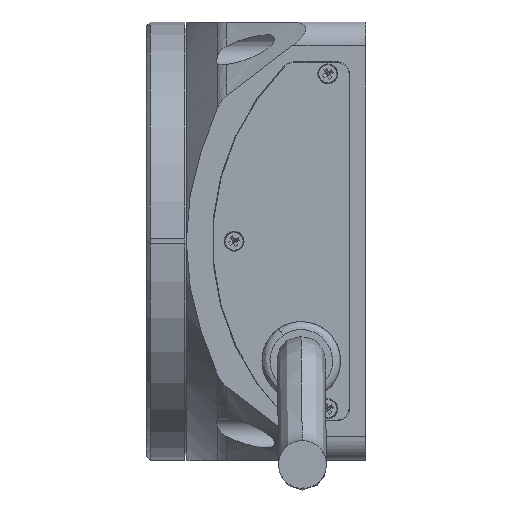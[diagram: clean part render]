
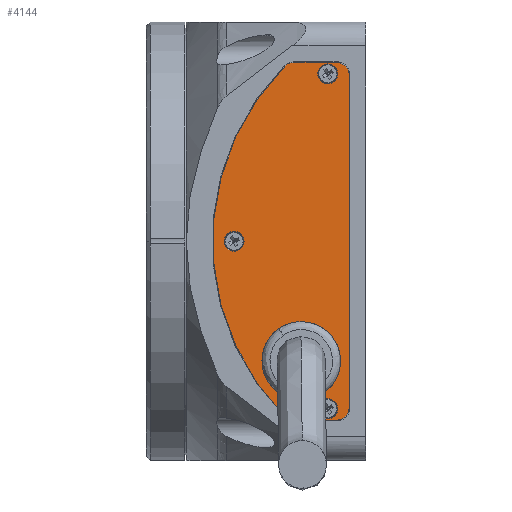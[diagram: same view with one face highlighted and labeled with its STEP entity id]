
A CAD part, left-side view. The second image highlights one B-rep face of the part: STEP entity #4144.
In plain terms, the highlighted planar face has unit normal (-1, 0, 0).
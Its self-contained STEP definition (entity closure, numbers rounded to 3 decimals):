
#58 = ORIENTED_EDGE ( 'NONE', *, *, #9126, .T. ) ;
#173 = CARTESIAN_POINT ( 'NONE',  ( -54.89, 33., -2.5 ) ) ;
#204 = CIRCLE ( 'NONE', #593, 2.5 ) ;
#216 = CARTESIAN_POINT ( 'NONE',  ( -54.89, 16.15, -39.85 ) ) ;
#218 = DIRECTION ( 'NONE',  ( 0., 0., -1. ) ) ;
#235 = DIRECTION ( 'NONE',  ( 1., 0., 0. ) ) ;
#248 = CARTESIAN_POINT ( 'NONE',  ( -54.89, 16.15, -30. ) ) ;
#250 = ORIENTED_EDGE ( 'NONE', *, *, #4096, .T. ) ;
#333 = DIRECTION ( 'NONE',  ( 0., 0., 1. ) ) ;
#343 = DIRECTION ( 'NONE',  ( 1., 0., 0. ) ) ;
#359 = CARTESIAN_POINT ( 'NONE',  ( -54.89, 9.5, 42. ) ) ;
#373 = ORIENTED_EDGE ( 'NONE', *, *, #2479, .T. ) ;
#593 = AXIS2_PLACEMENT_3D ( 'NONE', #359, #343, #333 ) ;
#631 = AXIS2_PLACEMENT_3D ( 'NONE', #7602, #7589, #7576 ) ;
#638 = ORIENTED_EDGE ( 'NONE', *, *, #6701, .T. ) ;
#654 = VECTOR ( 'NONE', #1487, 1000. ) ;
#665 = CARTESIAN_POINT ( 'NONE',  ( -54.89, 4.15, -41.675 ) ) ;
#715 = EDGE_CURVE ( 'NONE', #1976, #5033, #1683, .T. ) ;
#841 = AXIS2_PLACEMENT_3D ( 'NONE', #5821, #5431, #5510 ) ;
#905 = EDGE_CURVE ( 'NONE', #4890, #6594, #7450, .T. ) ;
#908 = CIRCLE ( 'NONE', #6408, 2.5 ) ;
#920 = DIRECTION ( 'NONE',  ( 0., 0., 1. ) ) ;
#939 = DIRECTION ( 'NONE',  ( 1., 0., 0. ) ) ;
#949 = CARTESIAN_POINT ( 'NONE',  ( -54.89, 9.5, -42. ) ) ;
#984 = ORIENTED_EDGE ( 'NONE', *, *, #3661, .F. ) ;
#1039 = CARTESIAN_POINT ( 'NONE',  ( -54.89, 4.15, 44.85 ) ) ;
#1072 = CIRCLE ( 'NONE', #6000, 9.85 ) ;
#1136 = DIRECTION ( 'NONE',  ( 0., 1., 0. ) ) ;
#1138 = DIRECTION ( 'NONE',  ( 1., 0., 0. ) ) ;
#1195 = ORIENTED_EDGE ( 'NONE', *, *, #5800, .F. ) ;
#1213 = CARTESIAN_POINT ( 'NONE',  ( -54.89, 33., 0. ) ) ;
#1251 = CARTESIAN_POINT ( 'NONE',  ( -54.89, 4.15, -44.85 ) ) ;
#1294 = CARTESIAN_POINT ( 'NONE',  ( -54.89, 4.15, -44.85 ) ) ;
#1303 = EDGE_LOOP ( 'NONE', ( #4112, #2938 ) ) ;
#1331 = ORIENTED_EDGE ( 'NONE', *, *, #905, .F. ) ;
#1361 = EDGE_CURVE ( 'NONE', #4879, #6594, #4864, .T. ) ;
#1384 = EDGE_LOOP ( 'NONE', ( #3082, #373 ) ) ;
#1487 = DIRECTION ( 'NONE',  ( 0., -1., 0. ) ) ;
#1588 = DIRECTION ( 'NONE',  ( 1., 0., 0. ) ) ;
#1683 = CIRCLE ( 'NONE', #841, 2.5 ) ;
#1688 = AXIS2_PLACEMENT_3D ( 'NONE', #4097, #9015, #4798 ) ;
#1710 = DIRECTION ( 'NONE',  ( 1., 0., 0. ) ) ;
#1832 = VERTEX_POINT ( 'NONE', #4695 ) ;
#1859 = FACE_BOUND ( 'NONE', #1303, .T. ) ;
#1908 = DIRECTION ( 'NONE',  ( 0., 0., 1. ) ) ;
#1940 = VERTEX_POINT ( 'NONE', #8749 ) ;
#1976 = VERTEX_POINT ( 'NONE', #173 ) ;
#1993 = DIRECTION ( 'NONE',  ( 0., 0., -1. ) ) ;
#2024 = VERTEX_POINT ( 'NONE', #7260 ) ;
#2046 = ORIENTED_EDGE ( 'NONE', *, *, #8258, .T. ) ;
#2053 = DIRECTION ( 'NONE',  ( 1., 0., 0. ) ) ;
#2245 = CARTESIAN_POINT ( 'NONE',  ( -54.89, 18.01, -41.675 ) ) ;
#2368 = PLANE ( 'NONE',  #8294 ) ;
#2407 = VERTEX_POINT ( 'NONE', #3083 ) ;
#2479 = EDGE_CURVE ( 'NONE', #2794, #8305, #908, .T. ) ;
#2653 = DIRECTION ( 'NONE',  ( 0., 0., 1. ) ) ;
#2794 = VERTEX_POINT ( 'NONE', #7148 ) ;
#2850 = EDGE_LOOP ( 'NONE', ( #58, #250 ) ) ;
#2896 = CIRCLE ( 'NONE', #1688, 2.5 ) ;
#2938 = ORIENTED_EDGE ( 'NONE', *, *, #5671, .T. ) ;
#3068 = CIRCLE ( 'NONE', #5012, 3.175 ) ;
#3082 = ORIENTED_EDGE ( 'NONE', *, *, #4806, .T. ) ;
#3083 = CARTESIAN_POINT ( 'NONE',  ( -54.89, 9.5, 44.5 ) ) ;
#3464 = CIRCLE ( 'NONE', #4440, 62.35 ) ;
#3496 = FACE_OUTER_BOUND ( 'NONE', #4508, .T. ) ;
#3498 = VERTEX_POINT ( 'NONE', #216 ) ;
#3661 = EDGE_CURVE ( 'NONE', #8804, #4789, #3068, .T. ) ;
#3762 = CARTESIAN_POINT ( 'NONE',  ( -54.89, 33., 2.5 ) ) ;
#4015 = CARTESIAN_POINT ( 'NONE',  ( -54.89, 18.01, -44.85 ) ) ;
#4034 = EDGE_CURVE ( 'NONE', #8804, #2024, #4389, .T. ) ;
#4066 = VERTEX_POINT ( 'NONE', #665 ) ;
#4096 = EDGE_CURVE ( 'NONE', #1940, #2407, #204, .T. ) ;
#4097 = CARTESIAN_POINT ( 'NONE',  ( -54.89, 9.5, 42. ) ) ;
#4112 = ORIENTED_EDGE ( 'NONE', *, *, #5302, .T. ) ;
#4144 = ADVANCED_FACE ( 'NONE', ( #1859, #9112, #7292, #5387, #3496 ), #2368, .T. ) ;
#4241 = EDGE_CURVE ( 'NONE', #4879, #1832, #8234, .T. ) ;
#4389 = LINE ( 'NONE', #1294, #654 ) ;
#4440 = AXIS2_PLACEMENT_3D ( 'NONE', #5937, #1710, #6659 ) ;
#4494 = CIRCLE ( 'NONE', #631, 2.5 ) ;
#4508 = EDGE_LOOP ( 'NONE', ( #638, #4668, #7663, #1331, #1195, #984, #6513, #7501 ) ) ;
#4646 = VECTOR ( 'NONE', #1136, 1000. ) ;
#4668 = ORIENTED_EDGE ( 'NONE', *, *, #4241, .F. ) ;
#4695 = CARTESIAN_POINT ( 'NONE',  ( -54.89, 4.15, 41.675 ) ) ;
#4707 = EDGE_LOOP ( 'NONE', ( #2046, #5711 ) ) ;
#4789 = VERTEX_POINT ( 'NONE', #8004 ) ;
#4798 = DIRECTION ( 'NONE',  ( 0., 0., 1. ) ) ;
#4806 = EDGE_CURVE ( 'NONE', #8305, #2794, #4494, .T. ) ;
#4864 = LINE ( 'NONE', #1039, #4646 ) ;
#4879 = VERTEX_POINT ( 'NONE', #7162 ) ;
#4890 = VERTEX_POINT ( 'NONE', #5995 ) ;
#5012 = AXIS2_PLACEMENT_3D ( 'NONE', #2245, #2053, #1993 ) ;
#5033 = VERTEX_POINT ( 'NONE', #3762 ) ;
#5151 = CIRCLE ( 'NONE', #8274, 9.85 ) ;
#5302 = EDGE_CURVE ( 'NONE', #3498, #7949, #5151, .T. ) ;
#5337 = AXIS2_PLACEMENT_3D ( 'NONE', #8086, #8111, #8134 ) ;
#5354 = CARTESIAN_POINT ( 'NONE',  ( -54.89, 16.15, -30. ) ) ;
#5387 = FACE_BOUND ( 'NONE', #2850, .T. ) ;
#5431 = DIRECTION ( 'NONE',  ( 1., 0., 0. ) ) ;
#5454 = LINE ( 'NONE', #1251, #8953 ) ;
#5510 = DIRECTION ( 'NONE',  ( 0., 0., 1. ) ) ;
#5671 = EDGE_CURVE ( 'NONE', #7949, #3498, #1072, .T. ) ;
#5711 = ORIENTED_EDGE ( 'NONE', *, *, #715, .T. ) ;
#5755 = AXIS2_PLACEMENT_3D ( 'NONE', #5816, #1588, #6543 ) ;
#5800 = EDGE_CURVE ( 'NONE', #4789, #4890, #3464, .T. ) ;
#5816 = CARTESIAN_POINT ( 'NONE',  ( -54.89, 7.325, -41.675 ) ) ;
#5821 = CARTESIAN_POINT ( 'NONE',  ( -54.89, 33., 0. ) ) ;
#5937 = CARTESIAN_POINT ( 'NONE',  ( -54.89, -24., 0. ) ) ;
#5995 = CARTESIAN_POINT ( 'NONE',  ( -54.89, 20.264, 43.911 ) ) ;
#6000 = AXIS2_PLACEMENT_3D ( 'NONE', #5354, #1138, #6077 ) ;
#6077 = DIRECTION ( 'NONE',  ( 0., 0., -1. ) ) ;
#6132 = AXIS2_PLACEMENT_3D ( 'NONE', #7269, #7234, #7205 ) ;
#6144 = DIRECTION ( 'NONE',  ( 1., 0., 0. ) ) ;
#6228 = CIRCLE ( 'NONE', #5755, 3.175 ) ;
#6408 = AXIS2_PLACEMENT_3D ( 'NONE', #949, #939, #920 ) ;
#6473 = CARTESIAN_POINT ( 'NONE',  ( -54.89, 16.15, -20.15 ) ) ;
#6513 = ORIENTED_EDGE ( 'NONE', *, *, #4034, .T. ) ;
#6543 = DIRECTION ( 'NONE',  ( 0., 0., -1. ) ) ;
#6594 = VERTEX_POINT ( 'NONE', #8865 ) ;
#6659 = DIRECTION ( 'NONE',  ( 0., 0., -1. ) ) ;
#6701 = EDGE_CURVE ( 'NONE', #4066, #1832, #5454, .T. ) ;
#7148 = CARTESIAN_POINT ( 'NONE',  ( -54.89, 9.5, -44.5 ) ) ;
#7162 = CARTESIAN_POINT ( 'NONE',  ( -54.89, 7.325, 44.85 ) ) ;
#7205 = DIRECTION ( 'NONE',  ( 0., 0., -1. ) ) ;
#7234 = DIRECTION ( 'NONE',  ( 1., 0., 0. ) ) ;
#7260 = CARTESIAN_POINT ( 'NONE',  ( -54.89, 7.325, -44.85 ) ) ;
#7269 = CARTESIAN_POINT ( 'NONE',  ( -54.89, 7.325, 41.675 ) ) ;
#7292 = FACE_BOUND ( 'NONE', #4707, .T. ) ;
#7450 = CIRCLE ( 'NONE', #5337, 3.175 ) ;
#7501 = ORIENTED_EDGE ( 'NONE', *, *, #7504, .F. ) ;
#7504 = EDGE_CURVE ( 'NONE', #4066, #2024, #6228, .T. ) ;
#7576 = DIRECTION ( 'NONE',  ( 0., 0., 1. ) ) ;
#7589 = DIRECTION ( 'NONE',  ( 1., 0., 0. ) ) ;
#7595 = AXIS2_PLACEMENT_3D ( 'NONE', #1213, #6144, #1908 ) ;
#7597 = CARTESIAN_POINT ( 'NONE',  ( -54.89, 9.5, -39.5 ) ) ;
#7602 = CARTESIAN_POINT ( 'NONE',  ( -54.89, 9.5, -42. ) ) ;
#7663 = ORIENTED_EDGE ( 'NONE', *, *, #1361, .T. ) ;
#7949 = VERTEX_POINT ( 'NONE', #6473 ) ;
#8004 = CARTESIAN_POINT ( 'NONE',  ( -54.89, 20.264, -43.911 ) ) ;
#8086 = CARTESIAN_POINT ( 'NONE',  ( -54.89, 18.01, 41.675 ) ) ;
#8111 = DIRECTION ( 'NONE',  ( 1., 0., 0. ) ) ;
#8134 = DIRECTION ( 'NONE',  ( 0., 0., -1. ) ) ;
#8180 = CIRCLE ( 'NONE', #7595, 2.5 ) ;
#8234 = CIRCLE ( 'NONE', #6132, 3.175 ) ;
#8258 = EDGE_CURVE ( 'NONE', #5033, #1976, #8180, .T. ) ;
#8274 = AXIS2_PLACEMENT_3D ( 'NONE', #248, #235, #218 ) ;
#8294 = AXIS2_PLACEMENT_3D ( 'NONE', #9092, #9057, #9027 ) ;
#8305 = VERTEX_POINT ( 'NONE', #7597 ) ;
#8749 = CARTESIAN_POINT ( 'NONE',  ( -54.89, 9.5, 39.5 ) ) ;
#8804 = VERTEX_POINT ( 'NONE', #4015 ) ;
#8865 = CARTESIAN_POINT ( 'NONE',  ( -54.89, 18.01, 44.85 ) ) ;
#8953 = VECTOR ( 'NONE', #2653, 1000. ) ;
#9015 = DIRECTION ( 'NONE',  ( 1., 0., 0. ) ) ;
#9027 = DIRECTION ( 'NONE',  ( 0., 0., 1. ) ) ;
#9057 = DIRECTION ( 'NONE',  ( -1., 0., 0. ) ) ;
#9092 = CARTESIAN_POINT ( 'NONE',  ( -54.89, -24., 0. ) ) ;
#9112 = FACE_BOUND ( 'NONE', #1384, .T. ) ;
#9126 = EDGE_CURVE ( 'NONE', #2407, #1940, #2896, .T. ) ;
